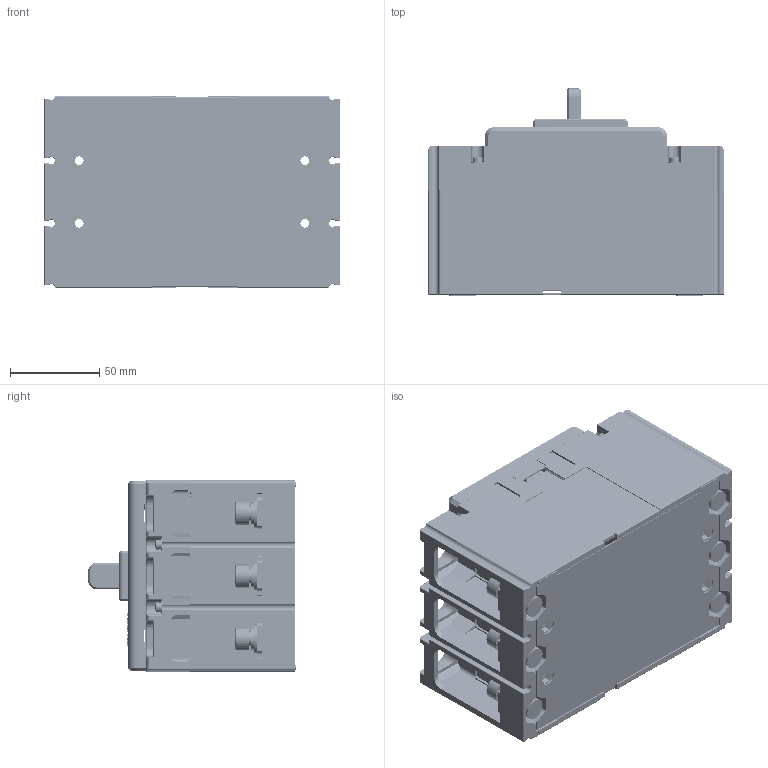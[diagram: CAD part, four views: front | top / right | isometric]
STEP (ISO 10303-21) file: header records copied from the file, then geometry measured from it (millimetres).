
FILE_DESCRIPTION((''),'2;1');
FILE_NAME('CDM3V-160F3P_ASM','2021-06-10T',('yan.shen'),(''),'PRO/ENGINEER BY PARAMETRIC TECHNOLOGY CORPORATION, 2015440','PRO/ENGINEER BY PARAMETRIC TECHNOLOGY CORPORATION, 2015440','');
FILE_SCHEMA(('CONFIG_CONTROL_DESIGN'));
Products named in the file (29): JZ-5024044500; GB_T809-M3X12; 5024044500_ASM; 8940007200; 8551033500; 8585064200; 8750029700; 8751002100; GB_T70_1-M8X20; 7090200704_GB_T97_1_8; 7090370701K_GB_T93_8; 5850004100_ASM; 8253076600; 5253029200_ASM; ZG-5315050000; GB_T809-M3X8; 5315050000_ASM; 8282018100_AF0; 8253077300; 5315051200_ASM; 8315095900; 7010100305R01_GB_T823_M3X10; 7090300201_GB_T93_3; GB_T97_4_3; 5850007700_ASM; 5315051400_ASM; 8742102700; 7030100225_GB_T9074_4-M3X30; CDM3V-160F3P_ASM
Assembly tree (66 placements, depth 5):
  CDM3V-160F3P_ASM
    5024044500_ASM
      JZ-5024044500
      GB_T809-M3X12  x8
    8940007200  x6
    8551033500  x3
    8585064200  x3
    8750029700  x3
    8751002100  x3
    5850004100_ASM  x6
      GB_T70_1-M8X20
      7090200704_GB_T97_1_8
      7090370701K_GB_T93_8
    5253029200_ASM
      8253076600
    5315051400_ASM
      5315051200_ASM
        5315050000_ASM
          ZG-5315050000
          GB_T809-M3X8  x4
        8282018100_AF0
        8253077300
      8315095900
      5850007700_ASM  x4
        7010100305R01_GB_T823_M3X10
        7090300201_GB_T93_3
        GB_T97_4_3
    8742102700
    7030100225_GB_T9074_4-M3X30  x8
Bounding box: 165 x 116 x 107 mm (x, y, z)
Volume: 540231.9 mm3; surface area: 371422 mm2
Topology: 75 solids, 117 shells, 8024 faces, 20638 edges, 13002 vertices
Faces by surface type: plane 4000, cylinder 2662, torus 557, cone 302, sphere 199, bspline 154, extrusion 150
Entity records: 224761 total; most frequent: CARTESIAN_POINT 60990, ORIENTED_EDGE 34334, DIRECTION 33841, EDGE_CURVE 17185, VECTOR 11423, LINE 11273, AXIS2_PLACEMENT_3D 11209, VERTEX_POINT 10817
